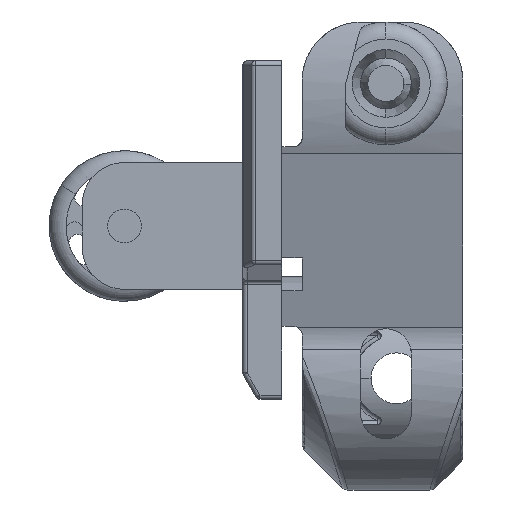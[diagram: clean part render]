
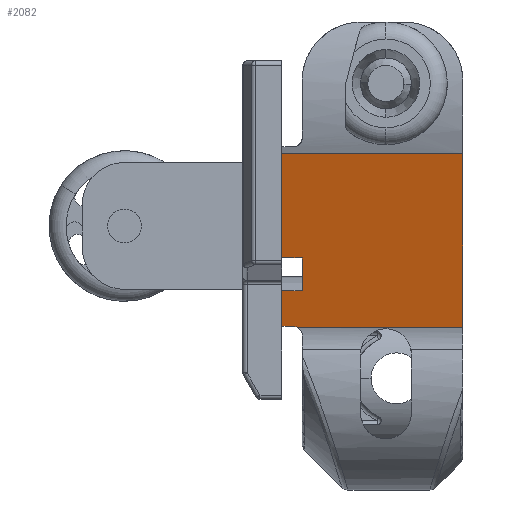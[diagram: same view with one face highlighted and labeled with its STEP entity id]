
A CAD part, left-side view. The second image highlights one B-rep face of the part: STEP entity #2082.
In plain terms, the highlighted planar face has unit normal (-0.962, 0, -0.274).
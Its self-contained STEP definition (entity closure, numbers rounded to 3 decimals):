
#530 =( BOUNDED_CURVE ( )  B_SPLINE_CURVE ( 3, ( #584, #543, #542, #541 ),
 .UNSPECIFIED., .F., .T. ) 
 B_SPLINE_CURVE_WITH_KNOTS ( ( 4, 4 ),
 ( 3.142, 3.618 ),
 .UNSPECIFIED. ) 
 CURVE ( )  GEOMETRIC_REPRESENTATION_ITEM ( )  RATIONAL_B_SPLINE_CURVE ( ( 1., 0.981, 0.981, 1. ) ) 
 REPRESENTATION_ITEM ( '' )  );
#536 = DIRECTION ( 'NONE',  ( 0., 1., 0. ) ) ;
#537 = VECTOR ( 'NONE', #536, 1000. ) ;
#538 = CARTESIAN_POINT ( 'NONE',  ( -16.919, -500000., -3.204 ) ) ;
#539 = LINE ( 'NONE', #538, #537 ) ;
#541 = CARTESIAN_POINT ( 'NONE',  ( -14.586, -1.858, -11.401 ) ) ;
#542 = CARTESIAN_POINT ( 'NONE',  ( -14.607, -1.716, -11.328 ) ) ;
#543 = CARTESIAN_POINT ( 'NONE',  ( -14.618, -1.56, -11.29 ) ) ;
#555 = DIRECTION ( 'NONE',  ( 0., 1., 0. ) ) ;
#556 = VECTOR ( 'NONE', #555, 1000. ) ;
#563 = DIRECTION ( 'NONE',  ( 0.274, 0., -0.962 ) ) ;
#564 = VECTOR ( 'NONE', #563, 1000. ) ;
#565 = CARTESIAN_POINT ( 'NONE',  ( -20.428, -21.4, 9.129 ) ) ;
#574 = CARTESIAN_POINT ( 'NONE',  ( -14.586, -21.4, -11.401 ) ) ;
#577 = LINE ( 'NONE', #565, #564 ) ;
#584 = CARTESIAN_POINT ( 'NONE',  ( -14.618, -1.4, -11.29 ) ) ;
#633 = CARTESIAN_POINT ( 'NONE',  ( -15.814, -500000., -7.084 ) ) ;
#634 = LINE ( 'NONE', #633, #556 ) ;
#638 = DIRECTION ( 'NONE',  ( 0., 1., 0. ) ) ;
#639 = VECTOR ( 'NONE', #638, 1000. ) ;
#649 = CARTESIAN_POINT ( 'NONE',  ( -14.586, -500000., -11.401 ) ) ;
#650 = LINE ( 'NONE', #649, #639 ) ;
#668 = DIRECTION ( 'NONE',  ( 0., -1., 0. ) ) ;
#669 = VECTOR ( 'NONE', #668, 1000. ) ;
#680 = DIRECTION ( 'NONE',  ( 0.962, 0., 0.274 ) ) ;
#698 = CARTESIAN_POINT ( 'NONE',  ( -15.814, -500000., -7.084 ) ) ;
#703 = PLANE ( 'NONE',  #782 ) ;
#707 = FACE_OUTER_BOUND ( 'NONE', #2115, .T. ) ;
#722 = CARTESIAN_POINT ( 'NONE',  ( -14.618, -500000., -11.29 ) ) ;
#723 = LINE ( 'NONE', #722, #669 ) ;
#726 = DIRECTION ( 'NONE',  ( 0.274, 0., -0.962 ) ) ;
#782 = AXIS2_PLACEMENT_3D ( 'NONE', #698, #680, #726 ) ;
#890 = CARTESIAN_POINT ( 'NONE',  ( -14.586, -1.858, -11.401 ) ) ;
#918 = CARTESIAN_POINT ( 'NONE',  ( -14.618, -1.4, -11.29 ) ) ;
#1955 = EDGE_CURVE ( 'NONE', #12074, #1969, #577, .T. ) ;
#1956 = ORIENTED_EDGE ( 'NONE', *, *, #14196, .T. ) ;
#1965 = ORIENTED_EDGE ( 'NONE', *, *, #1967, .F. ) ;
#1967 = EDGE_CURVE ( 'NONE', #1969, #2203, #650, .T. ) ;
#1969 = VERTEX_POINT ( 'NONE', #574 ) ;
#1989 = EDGE_CURVE ( 'NONE', #13985, #14126, #634, .T. ) ;
#1991 = ORIENTED_EDGE ( 'NONE', *, *, #2046, .T. ) ;
#1993 = EDGE_CURVE ( 'NONE', #2161, #2203, #530, .T. ) ;
#1994 = EDGE_CURVE ( 'NONE', #14073, #12513, #539, .T. ) ;
#2046 = EDGE_CURVE ( 'NONE', #14127, #2161, #723, .T. ) ;
#2048 = ORIENTED_EDGE ( 'NONE', *, *, #1955, .F. ) ;
#2050 = ORIENTED_EDGE ( 'NONE', *, *, #12085, .T. ) ;
#2074 = ORIENTED_EDGE ( 'NONE', *, *, #14125, .T. ) ;
#2078 = ORIENTED_EDGE ( 'NONE', *, *, #12461, .T. ) ;
#2082 = ADVANCED_FACE ( 'NONE', ( #707 ), #703, .F. ) ;
#2115 = EDGE_LOOP ( 'NONE', ( #1991, #2199, #1965, #2048, #2050, #2078, #2205, #1956, #2165, #2074 ) ) ;
#2161 = VERTEX_POINT ( 'NONE', #918 ) ;
#2165 = ORIENTED_EDGE ( 'NONE', *, *, #1989, .T. ) ;
#2199 = ORIENTED_EDGE ( 'NONE', *, *, #1993, .T. ) ;
#2203 = VERTEX_POINT ( 'NONE', #890 ) ;
#2205 = ORIENTED_EDGE ( 'NONE', *, *, #1994, .F. ) ;
#4692 = CARTESIAN_POINT ( 'NONE',  ( -15.814, -2.4, -7.084 ) ) ;
#4907 = CARTESIAN_POINT ( 'NONE',  ( -16.919, -2.4, -3.204 ) ) ;
#5006 = CARTESIAN_POINT ( 'NONE',  ( -15.814, 0., -7.084 ) ) ;
#5014 = DIRECTION ( 'NONE',  ( 0.274, 0., -0.962 ) ) ;
#5015 = VECTOR ( 'NONE', #5014, 1000. ) ;
#5018 = LINE ( 'NONE', #5006, #5015 ) ;
#5027 = CARTESIAN_POINT ( 'NONE',  ( -14.618, 0., -11.29 ) ) ;
#5038 = CARTESIAN_POINT ( 'NONE',  ( -15.814, 0., -7.084 ) ) ;
#5070 = VECTOR ( 'NONE', #5083, 1000. ) ;
#5083 = DIRECTION ( 'NONE',  ( 0.274, 0., -0.962 ) ) ;
#5084 = CARTESIAN_POINT ( 'NONE',  ( -20.428, -2.4, 9.129 ) ) ;
#5100 = LINE ( 'NONE', #5084, #5070 ) ;
#5893 = CARTESIAN_POINT ( 'NONE',  ( -20.428, -21.4, 9.129 ) ) ;
#6090 = CARTESIAN_POINT ( 'NONE',  ( -20.428, 0., 9.129 ) ) ;
#6163 = DIRECTION ( 'NONE',  ( 0., 1., 0. ) ) ;
#6164 = VECTOR ( 'NONE', #6163, 1000. ) ;
#6165 = CARTESIAN_POINT ( 'NONE',  ( -20.428, -21.4, 9.129 ) ) ;
#6240 = LINE ( 'NONE', #6165, #6164 ) ;
#6979 = DIRECTION ( 'NONE',  ( 0.274, 0., -0.962 ) ) ;
#6980 = VECTOR ( 'NONE', #6979, 1000. ) ;
#6981 = CARTESIAN_POINT ( 'NONE',  ( -20.428, 0., 9.129 ) ) ;
#6982 = LINE ( 'NONE', #6981, #6980 ) ;
#7130 = CARTESIAN_POINT ( 'NONE',  ( -16.919, 0., -3.204 ) ) ;
#12067 = VERTEX_POINT ( 'NONE', #6090 ) ;
#12074 = VERTEX_POINT ( 'NONE', #5893 ) ;
#12085 = EDGE_CURVE ( 'NONE', #12074, #12067, #6240, .T. ) ;
#12461 = EDGE_CURVE ( 'NONE', #12067, #12513, #6982, .T. ) ;
#12513 = VERTEX_POINT ( 'NONE', #7130 ) ;
#13985 = VERTEX_POINT ( 'NONE', #4692 ) ;
#14073 = VERTEX_POINT ( 'NONE', #4907 ) ;
#14125 = EDGE_CURVE ( 'NONE', #14126, #14127, #5018, .T. ) ;
#14126 = VERTEX_POINT ( 'NONE', #5038 ) ;
#14127 = VERTEX_POINT ( 'NONE', #5027 ) ;
#14196 = EDGE_CURVE ( 'NONE', #14073, #13985, #5100, .T. ) ;
